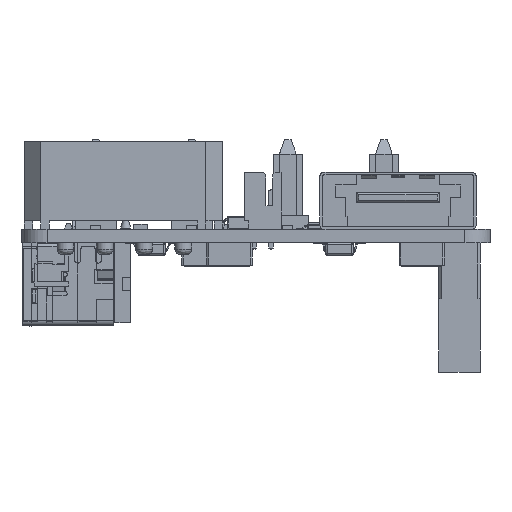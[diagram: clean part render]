
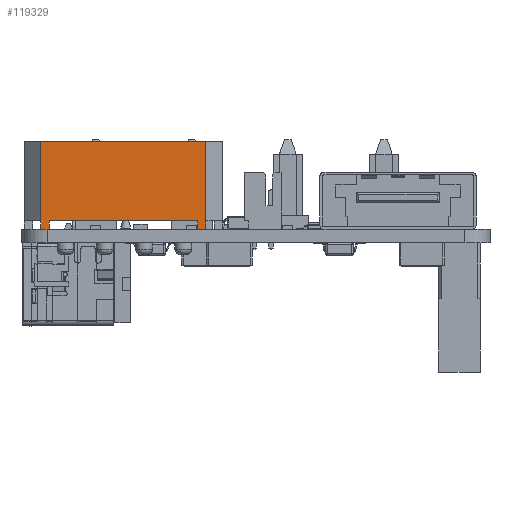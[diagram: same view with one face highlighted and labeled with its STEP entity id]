
A CAD part, front view. The second image highlights one B-rep face of the part: STEP entity #119329.
In plain terms, the highlighted planar face has unit normal (0, -1, 0).
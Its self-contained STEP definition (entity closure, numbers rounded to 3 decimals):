
#2438=DIRECTION('',(1.,0.,0.));
#2439=VECTOR('',#2438,1.);
#2440=CARTESIAN_POINT('',(-50.245,-23.29,0.));
#2441=LINE('',#2440,#2439);
#2454=DIRECTION('',(1.,0.,0.));
#2455=VECTOR('',#2454,1.);
#2456=CARTESIAN_POINT('',(-31.485,-23.29,0.));
#2457=LINE('',#2456,#2455);
#36757=DIRECTION('',(0.,0.,-1.));
#36758=VECTOR('',#36757,9.5);
#36759=CARTESIAN_POINT('',(-30.485,-23.29,10.5));
#36760=LINE('',#36759,#36758);
#36761=DIRECTION('',(0.,0.,-1.));
#36762=VECTOR('',#36761,1.);
#36763=CARTESIAN_POINT('',(-30.485,-23.29,1.));
#36764=LINE('',#36763,#36762);
#36765=DIRECTION('',(-1.,0.,0.));
#36766=VECTOR('',#36765,17.76);
#36767=CARTESIAN_POINT('',(-31.485,-23.29,1.));
#36768=LINE('',#36767,#36766);
#36769=DIRECTION('',(0.,0.,-1.));
#36770=VECTOR('',#36769,1.);
#36771=CARTESIAN_POINT('',(-49.245,-23.29,1.));
#36772=LINE('',#36771,#36770);
#36777=DIRECTION('',(0.,0.,-1.));
#36778=VECTOR('',#36777,1.);
#36779=CARTESIAN_POINT('',(-50.245,-23.29,1.));
#36780=LINE('',#36779,#36778);
#36781=DIRECTION('',(0.,0.,-1.));
#36782=VECTOR('',#36781,9.5);
#36783=CARTESIAN_POINT('',(-50.245,-23.29,10.5));
#36784=LINE('',#36783,#36782);
#36789=DIRECTION('',(-1.,0.,0.));
#36790=VECTOR('',#36789,19.76);
#36791=CARTESIAN_POINT('',(-30.485,-23.29,10.5));
#36792=LINE('',#36791,#36790);
#37141=DIRECTION('',(0.,0.,-1.));
#37142=VECTOR('',#37141,1.);
#37143=CARTESIAN_POINT('',(-31.485,-23.29,1.));
#37144=LINE('',#37143,#37142);
#53401=CARTESIAN_POINT('',(-49.245,-23.29,1.));
#53402=VERTEX_POINT('',#53401);
#53403=CARTESIAN_POINT('',(-31.485,-23.29,1.));
#53404=VERTEX_POINT('',#53403);
#53409=CARTESIAN_POINT('',(-30.485,-23.29,1.));
#53410=VERTEX_POINT('',#53409);
#53415=CARTESIAN_POINT('',(-50.245,-23.29,1.));
#53416=VERTEX_POINT('',#53415);
#53417=CARTESIAN_POINT('',(-50.245,-23.29,10.5));
#53418=VERTEX_POINT('',#53417);
#53419=CARTESIAN_POINT('',(-30.485,-23.29,10.5));
#53420=VERTEX_POINT('',#53419);
#53541=CARTESIAN_POINT('',(-50.245,-23.29,0.));
#53542=VERTEX_POINT('',#53541);
#53543=CARTESIAN_POINT('',(-49.245,-23.29,0.));
#53544=VERTEX_POINT('',#53543);
#53545=CARTESIAN_POINT('',(-31.485,-23.29,0.));
#53546=CARTESIAN_POINT('',(-30.485,-23.29,0.));
#53547=VERTEX_POINT('',#53545);
#53548=VERTEX_POINT('',#53546);
#119306=CARTESIAN_POINT('',(-50.245,-23.29,0.));
#119307=DIRECTION('',(0.,-1.,0.));
#119308=DIRECTION('',(1.,0.,0.));
#119309=AXIS2_PLACEMENT_3D('',#119306,#119307,#119308);
#119310=PLANE('',#119309);
#119311=ORIENTED_EDGE('',*,*,#68372,.F.);
#119313=ORIENTED_EDGE('',*,*,#119312,.F.);
#119315=ORIENTED_EDGE('',*,*,#119314,.F.);
#119317=ORIENTED_EDGE('',*,*,#119316,.F.);
#119319=ORIENTED_EDGE('',*,*,#119318,.T.);
#119321=ORIENTED_EDGE('',*,*,#119320,.T.);
#119322=ORIENTED_EDGE('',*,*,#68382,.F.);
#119324=ORIENTED_EDGE('',*,*,#119323,.F.);
#119325=ORIENTED_EDGE('',*,*,#119248,.T.);
#119326=ORIENTED_EDGE('',*,*,#119299,.T.);
#119327=EDGE_LOOP('',(#119311,#119313,#119315,#119317,#119319,#119321,#119322,
#119324,#119325,#119326));
#119328=FACE_OUTER_BOUND('',#119327,.F.);
#119329=ADVANCED_FACE('',(#119328),#119310,.T.);
#68372=EDGE_CURVE('',#53542,#53544,#2441,.T.);
#68382=EDGE_CURVE('',#53547,#53548,#2457,.T.);
#119248=EDGE_CURVE('',#53404,#53402,#36768,.T.);
#119299=EDGE_CURVE('',#53402,#53544,#36772,.T.);
#119312=EDGE_CURVE('',#53416,#53542,#36780,.T.);
#119314=EDGE_CURVE('',#53418,#53416,#36784,.T.);
#119316=EDGE_CURVE('',#53420,#53418,#36792,.T.);
#119318=EDGE_CURVE('',#53420,#53410,#36760,.T.);
#119320=EDGE_CURVE('',#53410,#53548,#36764,.T.);
#119323=EDGE_CURVE('',#53404,#53547,#37144,.T.);
